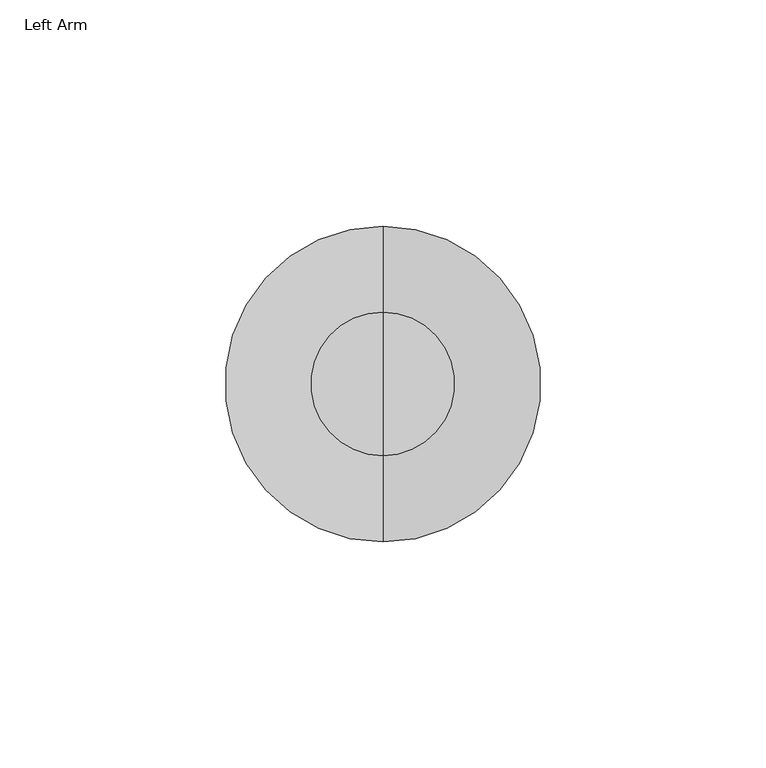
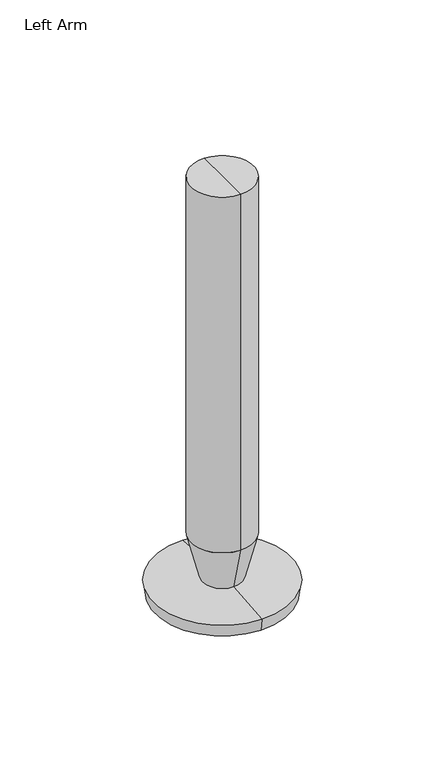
"""IFC4 building model written with IfcOpenShell, lengths in millimetres: furniture geometry, Steelcase Coalesse - Sidewalk - Seating - Collaborative Chair : Left Arm."""

from ifc_helpers import new_model, si_unit, frame, origin, place, context, project, spatial, polyline, circle_curve, source, transform, mapped, element, save
from ifc_brep_helpers import plane_surface, cylinder_surface, revolved_surface, advanced_brep


def left_arm_422e2eee(model_context):
    return source(origin(), model_context, "Body", "AdvancedBrep", [
        advanced_brep(
        [(161.0378055, -95.4402373, 222.25), (161.0378055, -79.5652373, 222.25), (161.0378055, -111.3152373, 222.25), (161.0378055, -129.306904, 0.0), (161.0378055, -61.5735707, 0.0), (161.0378055, -95.4402373, 0.0), (161.0378055, -130.3652373, 6.35), (161.0378055, -60.5152373, 6.35), (161.0378055, -105.3235908, 8.5001207), (161.0378055, -85.5568839, 8.5001207), (161.0378055, -111.3152373, 31.75), (161.0378055, -79.5652373, 31.75)],
        [
            (0, 1),
            (1, 2, circle_curve(frame((161.0378055, -95.4402373, 222.25), z_axis=(0.0, 0.0, 1.0), x_axis=(0.0, 1.0, 0.0)), 15.875)),
            (2, 0),
            (2, 1, circle_curve(frame((161.0378055, -95.4402373, 222.25), z_axis=(0.0, 0.0, 1.0), x_axis=(0.0, 1.0, 0.0)), 15.875)),
            (3, 4, circle_curve(frame((161.0378055, -95.4402373, 0.0), z_axis=(0.0, 0.0, -1.0), x_axis=(0.0, 1.0, 0.0)), 33.8666667)),
            (4, 5),
            (5, 3),
            (4, 3, circle_curve(frame((161.0378055, -95.4402373, 0.0), z_axis=(0.0, 0.0, -1.0), x_axis=(0.0, 1.0, 0.0)), 33.8666667)),
            (6, 7, circle_curve(frame((161.0378055, -95.4402373, 6.35), z_axis=(0.0, 0.0, -1.0), x_axis=(0.0, 1.0, 0.0)), 34.925)),
            (7, 4),
            (3, 6),
            (7, 6, circle_curve(frame((161.0378055, -95.4402373, 6.35), z_axis=(0.0, 0.0, -1.0), x_axis=(0.0, 1.0, 0.0)), 34.925)),
            (8, 9, circle_curve(frame((161.0378055, -95.4402373, 8.5001207), z_axis=(0.0, 0.0, -1.0), x_axis=(0.0, 1.0, 0.0)), 9.8833534)),
            (9, 7),
            (6, 8),
            (9, 8, circle_curve(frame((161.0378055, -95.4402373, 8.5001207), z_axis=(0.0, 0.0, -1.0), x_axis=(0.0, 1.0, 0.0)), 9.8833534)),
            (10, 11, circle_curve(frame((161.0378055, -95.4402373, 31.75), z_axis=(0.0, 0.0, -1.0), x_axis=(0.0, 1.0, 0.0)), 15.875)),
            (11, 9),
            (8, 10),
            (11, 10, circle_curve(frame((161.0378055, -95.4402373, 31.75), z_axis=(0.0, 0.0, -1.0), x_axis=(0.0, 1.0, 0.0)), 15.875)),
            (1, 11),
            (10, 2),
        ],
        [
            plane_surface(frame((161.0378055, -95.4402373, 222.25), z_axis=(0.0, 0.0, 1.0), x_axis=(0.0, 1.0, 0.0))),
            plane_surface(frame((161.0378055, -95.4402373, 0.0), z_axis=(0.0, 0.0, -1.0), x_axis=(0.0, 1.0, 0.0))),
            revolved_surface(polyline([(161.0378055, -61.5735707, 0.0), (161.0378055, -60.5152373, 6.35)]), (161.0378055, -95.4402373, -95.25), (0.0, 0.0, 1.0)),
            revolved_surface(polyline([(161.0378055, -60.5152373, 6.35), (161.0378055, -85.5568839, 8.5001207)]), (161.0378055, -95.4402373, -95.25), (0.0, 0.0, 1.0)),
            revolved_surface(polyline([(161.0378055, -85.5568839, 8.5001207), (161.0378055, -79.5652373, 31.75)]), (161.0378055, -95.4402373, -95.25), (0.0, 0.0, 1.0)),
            cylinder_surface(frame((161.0378055, -95.4402373, -95.25), z_axis=(0.0, 0.0, 1.0), x_axis=(0.0, 1.0, 0.0)), 15.875),
        ],
        [
            (0, [[1, 2, 3]]),
            (0, [[-3, 4, -1]]),
            (1, [[5, 6, 7]]),
            (1, [[8, -7, -6]]),
            (2, [[9, 10, -5, 11]]),
            (2, [[12, -11, -8, -10]]),
            (3, [[13, 14, -9, 15]]),
            (3, [[16, -15, -12, -14]]),
            (4, [[17, 18, -13, 19]]),
            (4, [[20, -19, -16, -18]]),
            (5, [[-2, 21, -17, 22]]),
            (5, [[-4, -22, -20, -21]]),
        ],
    ),
    ])


if __name__ == "__main__":
    model = new_model("IFC4")
    model_context = context("Model", 3, world=origin())
    ifc_project = project(units=[si_unit("LENGTHUNIT", "METRE", prefix="MILLI")], contexts=[model_context])
    site = spatial("IfcSite", under=ifc_project)
    building = spatial("IfcBuilding", under=site)
    placement = place(None, origin())
    left_arm_shape = left_arm_422e2eee(model_context)
    element("IfcFurniture", 1, ObjectType="Steelcase Coalesse - Sidewalk - Seating - Collaborative Chair : Left Arm", at=placement, inside=building, context=model_context, shape_type="MappedRepresentation", body=[
        mapped(left_arm_shape, transform((0.0, 0.0, 0.0), x_axis=(1.0, 0.0, 0.0), y_axis=(0.0, 1.0, 0.0), z_axis=(0.0, 0.0, 1.0))),
    ])
    save(model, "model.ifc")
